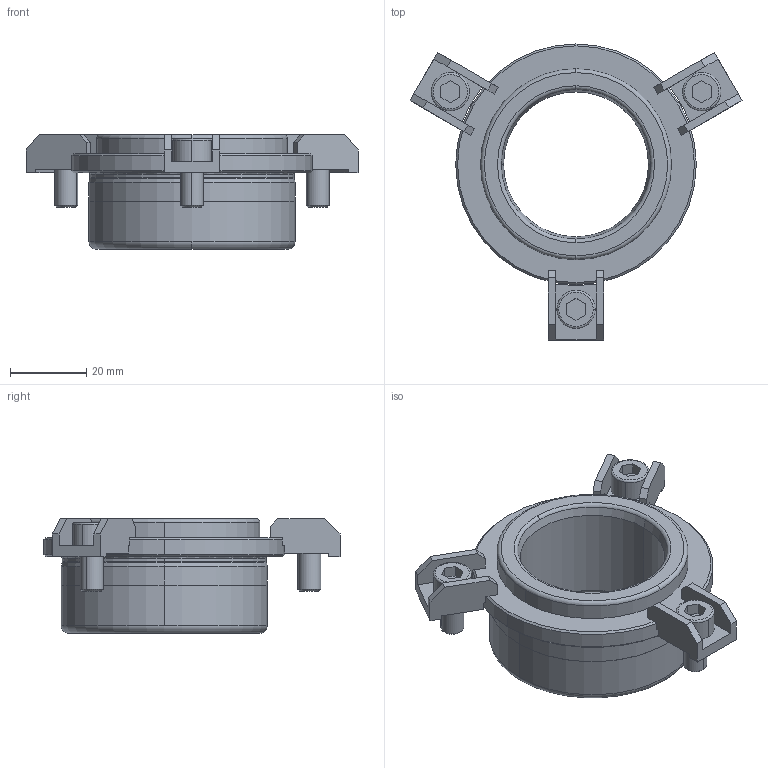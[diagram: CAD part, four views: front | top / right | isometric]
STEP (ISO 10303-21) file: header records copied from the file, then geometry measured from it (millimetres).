
FILE_DESCRIPTION((''),'2;1');
FILE_NAME('B42_030_020.stp','2008-11-04T14:28:13',(''),(''),'Mechanical Desktop 2009','Mechanical Desktop 2009',', , ');
FILE_SCHEMA(('CONFIG_CONTROL_DESIGN'));
Length unit declared in the file: millimetre
Products named in the file (2): Product; blmdl1
Assembly tree (1 placements, depth 2):
  Product
    blmdl1
Bounding box: 86.92 x 77.5 x 30 mm (x, y, z)
Volume: 41313.9 mm3; surface area: 17236.2 mm2
Topology: 7 solids, 7 shells, 185 faces, 474 edges, 312 vertices
Faces by surface type: plane 104, cylinder 39, cone 18, torus 14, bspline 10
Entity records: 6165 total; most frequent: CARTESIAN_POINT 1413, DIRECTION 1008, ORIENTED_EDGE 948, EDGE_CURVE 474, AXIS2_PLACEMENT_3D 357, VERTEX_POINT 312, VECTOR 294, LINE 294
